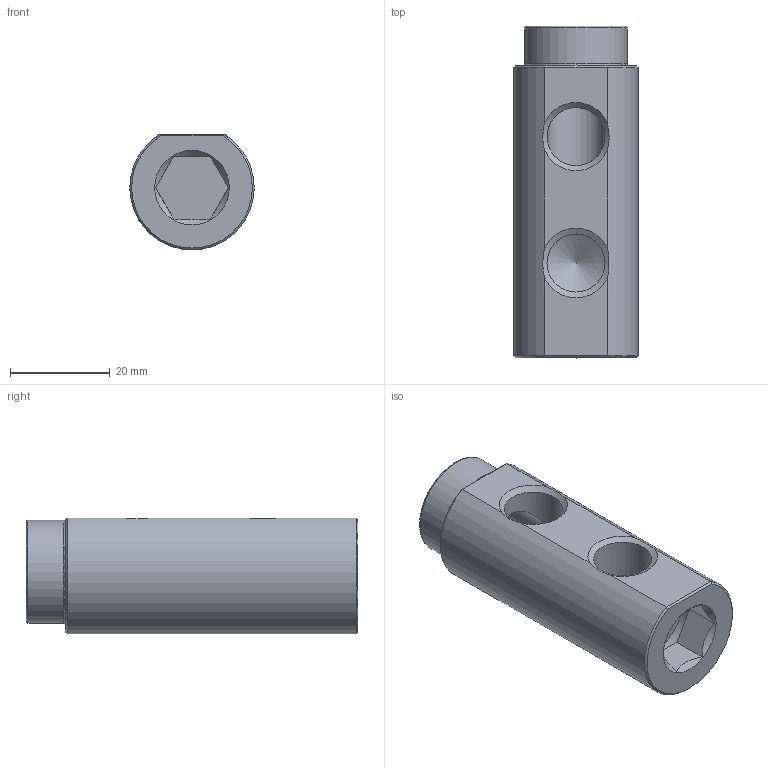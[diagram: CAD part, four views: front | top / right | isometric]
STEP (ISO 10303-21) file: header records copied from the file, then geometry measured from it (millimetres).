
FILE_DESCRIPTION(/* description */ (''),/* implementation_level */ '2;1');
FILE_NAME(/* name */ 'C:/Users/drich/Desktop/E141H-4 v2.step',/* time_stamp */ '2019-11-18T13:43:13-06:00',/* author */ (''),/* organization */ (''),/* preprocessor_version */ 'ST-DEVELOPER v18',/* originating_system */ 'Autodesk Translation Framework v8.12.0.6',/* authorisation */ '');
FILE_SCHEMA (('AUTOMOTIVE_DESIGN { 1 0 10303 214 3 1 1 }'));
Length unit declared in the file: inch
Products named in the file (2): E141H-4; E141H-4_1
Assembly tree (1 placements, depth 2):
  E141H-4
    E141H-4_1
Bounding box: 25.02 x 66.67 x 23.29 mm (x, y, z)
Volume: 22819.5 mm3; surface area: 8344.1 mm2
Topology: 1 solids, 1 shells, 42 faces, 108 edges, 67 vertices
Faces by surface type: plane 22, cone 10, cylinder 7, torus 2, bspline 1
Full cylindrical faces by diameter (mm): 6.909 x1, 11.668 x3, 14.665 x1, 20.625 x1
Entity records: 1433 total; most frequent: CARTESIAN_POINT 394, ORIENTED_EDGE 214, DIRECTION 202, EDGE_CURVE 107, AXIS2_PLACEMENT_3D 82, VERTEX_POINT 67, EDGE_LOOP 46, FACE_OUTER_BOUND 42
